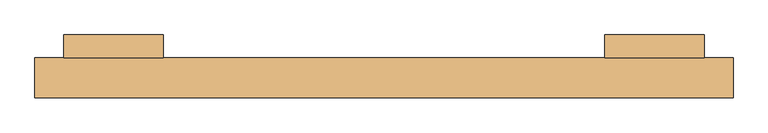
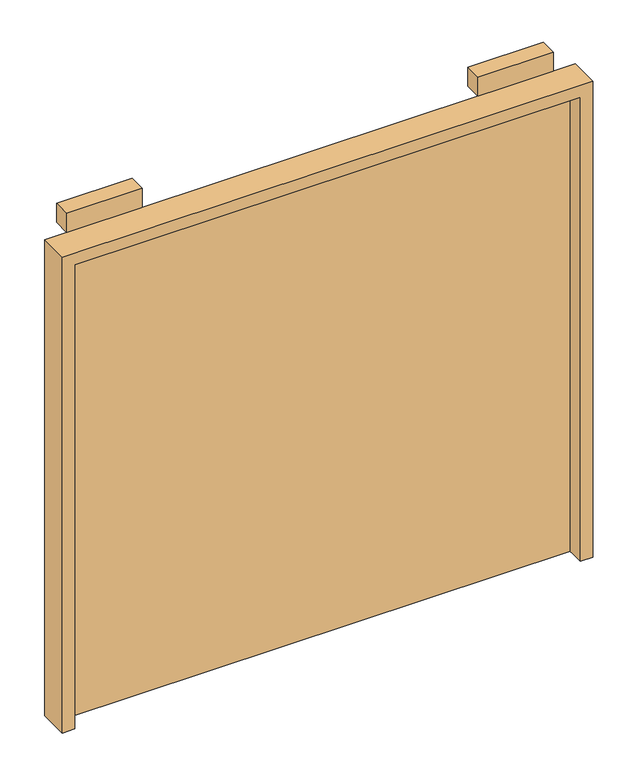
"""IFC4 building model written with IfcOpenShell, lengths in millimetres: door geometry, LOC_Pardörr : LOC_Pardörr."""

from ifc_helpers import new_model, si_unit, frame, origin, origin_with_axes, place, context, project, spatial, polyline, outline, extrude, source, transform, mapped, element, save


def door_29db4bb8(model_context):
    return source(origin(), model_context, "Body", "SweptSolid", [
        extrude(outline(polyline([(1005.0, 10.0), (-1005.0, 10.0), (-1005.0, 60.0), (1005.0, 60.0), (1005.0, 10.0)])), origin_with_axes(), (0.0, 0.0, 1.0), 1950.0),
        extrude(outline(polyline([(2000.0, -1055.0), (0.0, -1055.0), (0.0, -1005.0), (1950.0, -1005.0), (1950.0, 1005.0), (0.0, 1005.0), (0.0, 1055.0), (2000.0, 1055.0), (2000.0, -1055.0)])), frame((0.0, -60.0, 0.0), z_axis=(0.0, 1.0, 0.0), x_axis=(0.0, 0.0, 1.0)), (0.0, 0.0, 1.0), 120.0),
        extrude(outline(polyline([(967.8056406, 60.0), (667.8056406, 60.0), (667.8056406, 129.3466889), (967.8056406, 129.3466889), (967.8056406, 60.0)])), frame((0.0, 0.0, 2000.0), z_axis=(0.0, 0.0, 1.0), x_axis=(1.0, 0.0, 0.0)), (0.0, 0.0, 1.0), 80.0),
        extrude(outline(polyline([(-667.8056406, 60.0), (-967.8056406, 60.0), (-967.8056406, 129.3466889), (-667.8056406, 129.3466889), (-667.8056406, 60.0)])), frame((0.0, 0.0, 2000.0), z_axis=(0.0, 0.0, 1.0), x_axis=(1.0, 0.0, 0.0)), (0.0, 0.0, 1.0), 80.0),
    ])


if __name__ == "__main__":
    model = new_model("IFC4")
    model_context = context("Model", 3, world=origin())
    ifc_project = project(units=[si_unit("LENGTHUNIT", "METRE", prefix="MILLI")], contexts=[model_context])
    site = spatial("IfcSite", under=ifc_project)
    building = spatial("IfcBuilding", under=site)
    placement = place(None, origin())
    door_shape = door_29db4bb8(model_context)
    element("IfcDoor", 1, ObjectType="LOC_Pardörr : LOC_Pardörr", at=placement, inside=building, context=model_context, shape_type="MappedRepresentation", body=[
        mapped(door_shape, transform((0.0, 0.0, 0.0), x_axis=(1.0, 0.0, 0.0), y_axis=(0.0, 1.0, 0.0), z_axis=(0.0, 0.0, 1.0))),
    ])
    save(model, "model.ifc")
